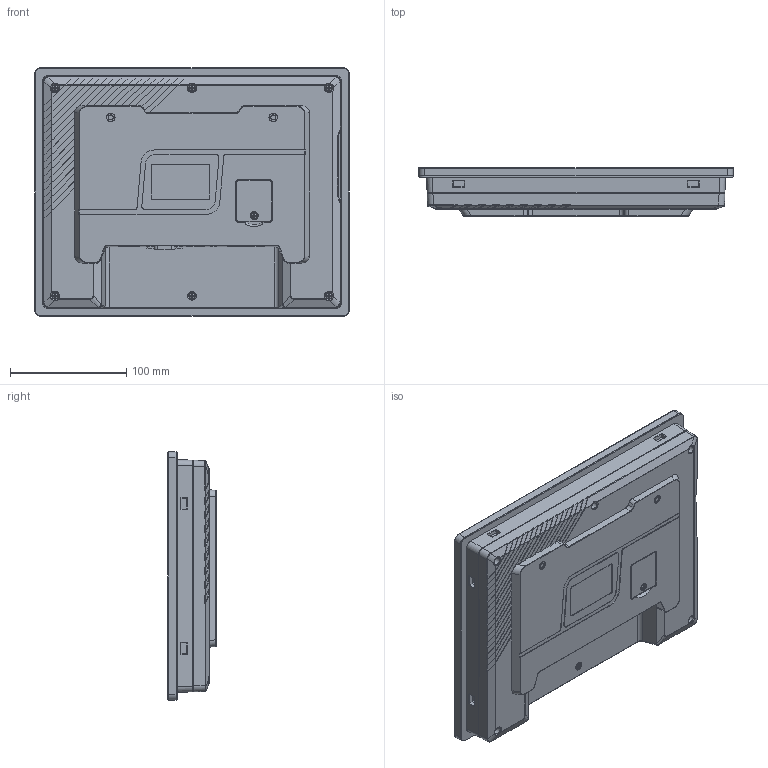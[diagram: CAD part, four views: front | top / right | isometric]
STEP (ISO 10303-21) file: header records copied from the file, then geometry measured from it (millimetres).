
FILE_DESCRIPTION((''),'2;1');
FILE_NAME('PI3101IG_ASM','2024-04-07T12:38:24',('Administrator'),(''),'CREO PARAMETRIC BY PTC INC, 2018050','CREO PARAMETRIC BY PTC INC, 2018050','');
FILE_SCHEMA(('CONFIG_CONTROL_DESIGN'));
Products named in the file (6): P0183_5_4; P0183_ASM_4_ASM_1_ASM; M3-10-PM_6_1; IN1101-LUODING_ASM_6_ASM_1_ASM; PI3101IG_ASM_4_ASM_1_ASM; PI3101IG_ASM
Assembly tree (11 placements, depth 4):
  PI3101IG_ASM
    PI3101IG_ASM_4_ASM_1_ASM
      P0183_ASM_4_ASM_1_ASM
        P0183_5_4
      IN1101-LUODING_ASM_6_ASM_1_ASM
        M3-10-PM_6_1  x7
Bounding box: 271 x 41.5 x 214 mm (x, y, z)
Volume: 1821721 mm3; surface area: 163964 mm2
Topology: 8 solids, 8 shells, 2231 faces, 6186 edges, 4047 vertices
Faces by surface type: plane 1116, cylinder 723, bspline 187, extrusion 82, torus 63, cone 46, sphere 14
Entity records: 69033 total; most frequent: CARTESIAN_POINT 25812, ORIENTED_EDGE 9604, DIRECTION 7842, EDGE_CURVE 4802, VECTOR 3244, LINE 3162, VERTEX_POINT 3129, AXIS2_PLACEMENT_3D 2299
